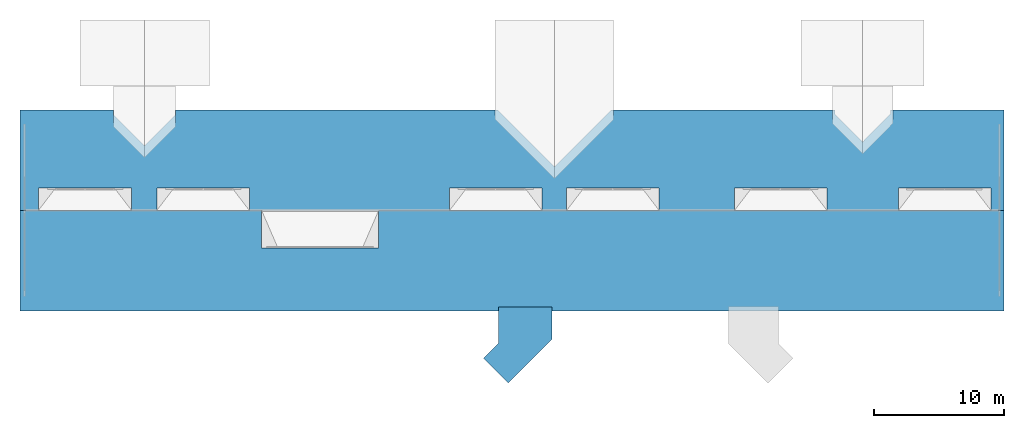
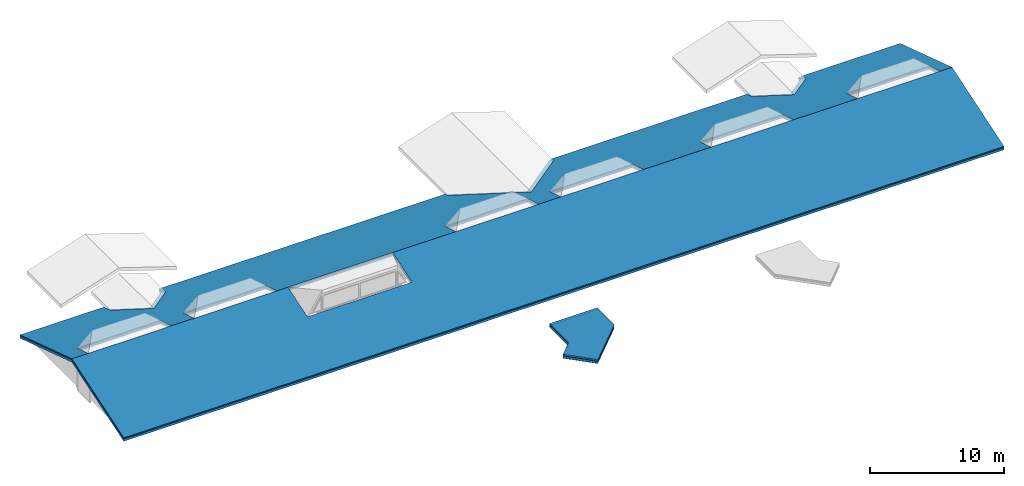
# One storey, part 6 of 7: 8 building element parts, 2 elements without a shape of their own.
"""IFC2X3 building model written with IfcOpenShell, lengths in millimetres."""

from ifc_helpers import new_model, entity, si_unit, converted_unit, derived_unit, money_unit, direction, frame, origin_with_axes, place, context, subcontext, project, spatial, faceted_brep, material, element, aggregate, save


model = new_model("IFC2X3")

# Units and contexts
model_context = context("Model", 3, precision=0.01, world=origin_with_axes(), true_north=direction((0.0, 1.0)))
body_context = subcontext(model_context, "Body", "Model", "MODEL_VIEW")
ifc_project = project(units=[si_unit("LENGTHUNIT", "METRE", prefix="MILLI"), si_unit("AREAUNIT", "SQUARE_METRE"), si_unit("VOLUMEUNIT", "CUBIC_METRE"), converted_unit("PLANEANGLEUNIT", "DEGREE", entity("IfcPlaneAngleMeasure", 0.0174532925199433), si_unit("PLANEANGLEUNIT", "RADIAN"), dimensions=[0, 0, 0, 0, 0, 0, 0]), money_unit("USD"), converted_unit("TIMEUNIT", "Year", entity("IfcTimeMeasure", 31557600.0), si_unit("TIMEUNIT", "SECOND"), dimensions=[0, 0, 1, 0, 0, 0, 0]), si_unit("MASSUNIT", "GRAM", prefix="KILO"), si_unit("THERMODYNAMICTEMPERATUREUNIT", "DEGREE_CELSIUS"), si_unit("LUMINOUSINTENSITYUNIT", "LUMEN"), si_unit("ENERGYUNIT", "JOULE", prefix="MEGA"), derived_unit("THERMALCONDUCTANCEUNIT", [(si_unit("POWERUNIT", "WATT"), 1), (si_unit("LENGTHUNIT", "METRE"), -1), (si_unit("THERMODYNAMICTEMPERATUREUNIT", "KELVIN"), -1)]), derived_unit("SPECIFICHEATCAPACITYUNIT", [(si_unit("ENERGYUNIT", "JOULE"), 1), (si_unit("MASSUNIT", "GRAM", prefix="KILO"), -1), (si_unit("THERMODYNAMICTEMPERATUREUNIT", "KELVIN"), -1)]), derived_unit("MASSDENSITYUNIT", [(si_unit("MASSUNIT", "GRAM", prefix="KILO"), 1), (si_unit("VOLUMEUNIT", "CUBIC_METRE"), -1)])], contexts=[model_context])

# Site, building, storey
site_placement = place(None, origin_with_axes())
site = spatial("IfcSite", under=ifc_project, at=site_placement, Name="Site", CompositionType="ELEMENT")
building_placement = place(site_placement, origin_with_axes())
building = spatial("IfcBuilding", under=site, at=building_placement, Name="Building", CompositionType="ELEMENT")
storey_placement = place(building_placement, frame((0.0, 0.0, 5900.0), z_axis=(0.0, 0.0, 1.0), x_axis=(1.0, 0.0, 0.0)))
storey = spatial("IfcBuildingStorey", under=building, at=storey_placement, Name="TAK", CompositionType="ELEMENT", Elevation=5900.0)

# Roof, building element parts
roof_1_placement = place(storey_placement, frame((32441.80777966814, 3132.334475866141, -3080.0), z_axis=(0.0, 0.0, 1.0), x_axis=(0.707106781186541, -0.707106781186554, 0.0)))
roof_1 = element("IfcRoof", 1, at=roof_1_placement, inside=storey, Name="RT - 001", ShapeType="NOTDEFINED")
ifc_material_1 = material(Name="Gravel")
building_element_part_1_placement = place(roof_1_placement, origin_with_axes())
building_element_part_1 = element("IfcBuildingElementPart", 2, at=building_element_part_1_placement, material=ifc_material_1, Name="Gravel", context=body_context, shape_type="Brep", body=[
    faceted_brep([(-1725.298761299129, 3857.543362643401, 350.0000000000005), (-1725.298761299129, 3857.543362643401, 380.0000000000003), (1174.701238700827, 6757.543362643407, 380.0000000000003), (1174.701238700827, 6757.543362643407, 350.0000000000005), (259.9999921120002, 1872.244609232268, 350.0000000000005), (259.9999921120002, 1872.244609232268, 380.0000000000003), (260.0000058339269, 267.6951193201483, 380.0000000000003), (2940.458074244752, 267.6951193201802, 380.0000000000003), (2940.458098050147, 4991.786503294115, 380.0000000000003), (2940.458098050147, 4991.786503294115, 350.0000000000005), (2940.458074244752, 267.6951193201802, 350.0000000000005), (260.0000058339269, 267.6951193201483, 350.0000000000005)], [[[0, 1, 2, 3]], [[4, 5, 1, 0]], [[2, 1, 5, 6, 7, 8]], [[3, 2, 8, 9]], [[3, 9, 10, 11, 4, 0]], [[11, 6, 5, 4]], [[10, 7, 6, 11]], [[9, 8, 7, 10]]]),
])
ifc_material_2 = material(Name="Membrane - Rainproof")
building_element_part_2_placement = place(roof_1_placement, origin_with_axes())
building_element_part_2 = element("IfcBuildingElementPart", 3, at=building_element_part_2_placement, material=ifc_material_2, Name="Membrane - Rainproof", context=body_context, shape_type="Brep", body=[
    faceted_brep([(-1725.298761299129, 3857.543362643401, 345.0000000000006), (-1725.298761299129, 3857.543362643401, 350.0000000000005), (1174.701238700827, 6757.543362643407, 350.0000000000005), (1174.701238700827, 6757.543362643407, 345.0000000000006), (259.9999921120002, 1872.244609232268, 345.0000000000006), (259.9999921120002, 1872.244609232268, 350.0000000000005), (260.0000058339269, 267.6951193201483, 350.0000000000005), (2940.458074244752, 267.6951193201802, 350.0000000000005), (2940.458098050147, 4991.786503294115, 350.0000000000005), (2940.458098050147, 4991.786503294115, 345.0000000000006), (2940.458074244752, 267.6951193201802, 345.0000000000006), (260.0000058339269, 267.6951193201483, 345.0000000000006)], [[[0, 1, 2, 3]], [[4, 5, 1, 0]], [[2, 1, 5, 6, 7, 8]], [[3, 2, 8, 9]], [[3, 9, 10, 11, 4, 0]], [[11, 6, 5, 4]], [[10, 7, 6, 11]], [[9, 8, 7, 10]]]),
])
ifc_material_3 = material(Name="Insulation - Fiber Hard")
building_element_part_3_placement = place(roof_1_placement, origin_with_axes())
building_element_part_3 = element("IfcBuildingElementPart", 4, at=building_element_part_3_placement, material=ifc_material_3, Name="Insulation - Fiber Hard", context=body_context, shape_type="Brep", body=[
    faceted_brep([(-1725.298761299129, 3857.543362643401, 225.0000000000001), (-1725.298761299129, 3857.543362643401, 345.0000000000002), (1174.701238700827, 6757.543362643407, 345.0000000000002), (1174.701238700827, 6757.543362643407, 225.0000000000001), (259.9999921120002, 1872.244609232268, 225.0000000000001), (259.9999921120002, 1872.244609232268, 345.0000000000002), (260.0000058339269, 267.6951193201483, 345.0000000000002), (2940.458074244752, 267.6951193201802, 345.0000000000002), (2940.458098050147, 4991.786503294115, 345.0000000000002), (2940.458098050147, 4991.786503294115, 225.0000000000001), (2940.458074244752, 267.6951193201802, 225.0000000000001), (260.0000058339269, 267.6951193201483, 225.0000000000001)], [[[0, 1, 2, 3]], [[4, 5, 1, 0]], [[2, 1, 5, 6, 7, 8]], [[3, 2, 8, 9]], [[3, 9, 10, 11, 4, 0]], [[11, 6, 5, 4]], [[10, 7, 6, 11]], [[9, 8, 7, 10]]]),
])
ifc_material_4 = material(Name="Membrane - Vapor Barrier")
building_element_part_4_placement = place(roof_1_placement, origin_with_axes())
building_element_part_4 = element("IfcBuildingElementPart", 5, at=building_element_part_4_placement, material=ifc_material_4, Name="Membrane - Vapor Barrier", context=body_context, shape_type="Brep", body=[
    faceted_brep([(-1725.298761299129, 3857.543362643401, 220.0000000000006), (-1725.298761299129, 3857.543362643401, 225.0000000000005), (1174.701238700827, 6757.543362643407, 225.0000000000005), (1174.701238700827, 6757.543362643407, 220.0000000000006), (259.9999921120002, 1872.244609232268, 220.0000000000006), (259.9999921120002, 1872.244609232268, 225.0000000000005), (260.0000058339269, 267.6951193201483, 225.0000000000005), (2940.458074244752, 267.6951193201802, 225.0000000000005), (2940.458098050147, 4991.786503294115, 225.0000000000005), (2940.458098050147, 4991.786503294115, 220.0000000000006), (2940.458074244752, 267.6951193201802, 220.0000000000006), (260.0000058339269, 267.6951193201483, 220.0000000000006)], [[[0, 1, 2, 3]], [[4, 5, 1, 0]], [[2, 1, 5, 6, 7, 8]], [[3, 2, 8, 9]], [[3, 9, 10, 11, 4, 0]], [[11, 6, 5, 4]], [[10, 7, 6, 11]], [[9, 8, 7, 10]]]),
])
ifc_material_5 = material(Name="Plaster - Gypsum")
building_element_part_5_placement = place(roof_1_placement, origin_with_axes())
building_element_part_5 = element("IfcBuildingElementPart", 6, at=building_element_part_5_placement, material=ifc_material_5, Name="Plaster - Gypsum", context=body_context, shape_type="Brep", body=[
    faceted_brep([(1174.701238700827, 6757.543362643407, 0.0), (-1725.298761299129, 3857.543362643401, 0.0), (-1725.298761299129, 3857.543362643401, 20.00000000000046), (1174.701238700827, 6757.543362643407, 20.00000000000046), (2940.458098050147, 4991.786503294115, 0.0), (2940.458074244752, 267.6951193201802, 0.0), (260.0000058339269, 267.6951193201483, 0.0), (259.9999921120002, 1872.244609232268, 0.0), (259.9999921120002, 1872.244609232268, 20.00000000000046), (260.0000058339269, 267.6951193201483, 20.00000000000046), (2940.458074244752, 267.6951193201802, 20.00000000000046), (2940.458098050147, 4991.786503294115, 20.00000000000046)], [[[0, 1, 2, 3]], [[0, 4, 5, 6, 7, 1]], [[1, 7, 8, 2]], [[3, 2, 8, 9, 10, 11]], [[4, 0, 3, 11]], [[5, 4, 11, 10]], [[6, 5, 10, 9]], [[7, 6, 9, 8]]]),
])
ifc_material_6 = material(Name="Reinforced Concrete - Structural")
building_element_part_6_placement = place(roof_1_placement, origin_with_axes())
building_element_part_6 = element("IfcBuildingElementPart", 7, at=building_element_part_6_placement, material=ifc_material_6, Name="Reinforced Concrete - Structural", context=body_context, shape_type="Brep", body=[
    faceted_brep([(-1725.298761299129, 3857.543362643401, 20.00000000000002), (-1725.298761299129, 3857.543362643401, 220.0000000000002), (1174.701238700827, 6757.543362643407, 220.0000000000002), (1174.701238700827, 6757.543362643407, 20.00000000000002), (259.9999921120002, 1872.244609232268, 20.00000000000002), (259.9999921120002, 1872.244609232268, 220.0000000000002), (260.0000058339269, 267.6951193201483, 220.0000000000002), (2940.458074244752, 267.6951193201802, 220.0000000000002), (2940.458098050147, 4991.786503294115, 220.0000000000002), (2940.458098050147, 4991.786503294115, 20.00000000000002), (2940.458074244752, 267.6951193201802, 20.00000000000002), (260.0000058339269, 267.6951193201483, 20.00000000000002)], [[[0, 1, 2, 3]], [[4, 5, 1, 0]], [[2, 1, 5, 6, 7, 8]], [[3, 2, 8, 9]], [[3, 9, 10, 11, 4, 0]], [[11, 6, 5, 4]], [[10, 7, 6, 11]], [[9, 8, 7, 10]]]),
])
aggregate(roof_1, [building_element_part_1, building_element_part_2, building_element_part_3, building_element_part_4, building_element_part_5, building_element_part_6])

roof_2_placement = place(storey_placement, frame((34994.86971369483, 14500.02954631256, -259.8882572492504), z_axis=(0.0, 0.0, 1.0), x_axis=(1.0, 0.0, 0.0)))
roof_2 = element("IfcRoof", 8, at=roof_2_placement, inside=storey, Name="RT - 001", ShapeType="NOTDEFINED")
ifc_material_7 = material(Name="GENERIC - EXTERNAL MEMBRANE")
building_element_part_7_placement = place(roof_2_placement, origin_with_axes())
building_element_part_7 = element("IfcBuildingElementPart", 9, at=building_element_part_7_placement, material=ifc_material_7, Name="GENERIC - EXTERNAL MEMBRANE", context=body_context, shape_type="Brep", body=[
    faceted_brep([(-25869.86893337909, 7336.123248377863, 237.5277323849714), (-25869.86893337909, 7660.033898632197, 237.5277323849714), (-25869.86893349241, 7720.095978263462, 218.0326164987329), (-25869.86893349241, 7720.095978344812, 112.8968012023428), (-25869.86893349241, 6735.770414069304, 537.5277328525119), (-25869.86893349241, 6411.859763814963, 537.5277328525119), (-30619.86971369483, 6735.770413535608, 537.5277330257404), (-30619.86971327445, 7660.033896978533, 237.5277327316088), (-30619.86971327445, 7720.095978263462, 218.0326164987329), (-37815.13028657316, 7720.095978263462, 218.0326164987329), (-37815.13028723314, 0.03321517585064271, 2723.831959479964), (-36394.86971369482, 0.03321517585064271, 2723.831959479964), (-36394.86971369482, 1699.970453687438, 2172.061624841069), (-29244.86971369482, 1699.970453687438, 2172.061624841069), (-29244.86971369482, 0.03321517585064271, 2723.831959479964), (-27294.86971369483, 0.03321517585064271, 2723.831959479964), (-27294.86971369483, 99.97045368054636, 2691.394054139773), (-27294.86971375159, 1699.970453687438, 2172.061624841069), (-20194.86971369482, 1699.970453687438, 2172.061624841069), (-20194.86971369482, 1583.422116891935, 2209.891206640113), (-20194.86971369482, 99.97045368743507, 2691.394054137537), (-20194.86971346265, 69.59593468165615, 2701.253099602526), (-20194.86971293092, 0.03321517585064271, 2723.831959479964), (-19244.86971369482, 0.03321517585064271, 2723.831959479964), (-10244.86971369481, 0.03321517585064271, 2723.831959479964), (-4794.869713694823, 0.03321517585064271, 2723.831959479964), (-4794.869713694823, 1699.970453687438, 2172.061624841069), (2305.130286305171, 1699.970453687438, 2172.061624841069), (2305.130286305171, 0.03321517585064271, 2723.831959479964), (4205.130286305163, 0.03321517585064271, 2723.831959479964), (4205.130286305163, 1699.970453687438, 2172.061624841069), (11305.13028630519, 1699.970453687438, 2172.061624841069), (11305.13028630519, 0.03321517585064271, 2723.831959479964), (17105.13028630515, 0.03321517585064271, 2723.831959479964), (17105.13028630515, 1699.970453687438, 2172.061624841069), (24205.13028630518, 1699.970453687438, 2172.061624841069), (24205.13028630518, 0.03321517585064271, 2723.831959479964), (29705.13028630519, 0.03321517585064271, 2723.831959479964), (29705.13028630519, 1699.970453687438, 2172.061624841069), (36805.13028630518, 1699.970453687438, 2172.061624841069), (36805.13028630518, 0.03321517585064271, 2723.831959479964), (37815.13028646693, 0.03321517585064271, 2723.831959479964), (37815.13028657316, 7720.095978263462, 218.0326164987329), (29280.13025976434, 7720.095978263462, 218.0326158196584), (29280.13025968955, 6996.030813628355, 453.0516918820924), (26955.13153909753, 4668.812771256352, 1208.426566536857), (24630.59105152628, 6996.053927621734, 453.0441894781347), (24630.59105139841, 7720.095978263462, 218.0326159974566), (7805.146743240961, 7720.095978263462, 218.0326164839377), (7805.14674316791, 7308.081279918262, 351.7654876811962), (3255.146863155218, 2753.358345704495, 1830.150066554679), (-1294.852815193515, 7308.081185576, 351.7655183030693), (-1294.85281534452, 7720.095978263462, 218.0326164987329), (-28244.86932421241, 4358.30469238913, 1309.212138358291), (-1294.852815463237, 7720.095978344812, 112.8968012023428), (-1294.852815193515, 6984.170535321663, 351.7655183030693), (3255.146861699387, 2429.447693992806, 1830.150067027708), (7805.14674316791, 6984.170629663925, 351.7654876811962), (7805.146743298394, 7720.095978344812, 112.8968012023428), (24830.59105210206, 7720.095978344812, 112.8968012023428), (24830.59105211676, 7396.18532898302, 218.0326159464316), (24630.59105136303, 7596.417663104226, 153.0406506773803), (24630.59105152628, 6672.143277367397, 453.0441894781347), (26955.13164729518, 4344.902121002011, 1208.426566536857), (29280.13025968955, 6672.120163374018, 453.0516918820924), (29280.13025978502, 7596.376299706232, 153.054076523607), (29080.13022713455, 7396.185329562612, 218.0326158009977), (29080.13022713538, 7720.095978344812, 112.8968012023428), (37815.13028685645, 7720.095978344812, 112.8968012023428), (37815.13028608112, 0.03321475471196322, 2618.696144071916), (36805.13028614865, 0.03321475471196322, 2618.696144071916), (36805.13028614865, 1699.970453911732, 2066.925809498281), (29705.13028652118, 1699.970453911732, 2066.925809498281), (29705.13028652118, 0.03321475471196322, 2618.696144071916), (24205.13028652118, 0.03321475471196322, 2618.696144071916), (24205.13028652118, 1699.970453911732, 2066.925809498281), (17105.13028596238, 1699.970453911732, 2066.925809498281), (17105.13028596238, 0.03321475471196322, 2618.696144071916), (11305.13028614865, 0.03321475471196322, 2618.696144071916), (11305.13028614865, 1699.970453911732, 2066.925809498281), (4205.130286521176, 1699.970453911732, 2066.925809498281), (4205.130286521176, 0.03321475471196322, 2618.696144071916), (2305.130286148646, 0.03321475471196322, 2618.696144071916), (2305.130286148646, 1699.970453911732, 2066.925809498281), (-4794.869713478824, 1699.970453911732, 2066.925809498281), (-4794.869713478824, 0.03321475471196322, 2618.696144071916), (-10244.86971351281, 0.03321475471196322, 2618.696144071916), (-19244.86971351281, 0.03321475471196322, 2618.696144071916), (-20194.86971333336, 0.03321475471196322, 2618.696144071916), (-20194.86971385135, 38.72322380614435, 2606.138034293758), (-20194.86971385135, 69.09774240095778, 2596.278988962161), (-20194.86971385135, 1552.549405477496, 2114.776141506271), (-20194.86971385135, 1699.970453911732, 2066.925809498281), (-27294.86971347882, 1699.970453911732, 2066.925809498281), (-27294.86971347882, 69.09774240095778, 2596.278988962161), (-27294.86971347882, 0.03321475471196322, 2618.696144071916), (-29244.86971366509, 0.03321475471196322, 2618.696144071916), (-29244.86971366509, 1699.970453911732, 2066.925809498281), (-36394.86971403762, 1699.970453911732, 2066.925809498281), (-36394.86971403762, 0.03321475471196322, 2618.696144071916), (-37815.13028761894, 0.03321475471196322, 2618.696144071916), (-37815.13028684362, 7720.095978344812, 112.8968012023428), (-30619.86971327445, 7720.095978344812, 112.8968012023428), (-30619.86971327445, 7336.123246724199, 237.5277327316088), (-30619.86971369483, 6411.859763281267, 537.5277330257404), (-28244.86932421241, 4034.394042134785, 1309.212138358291), (-37815.13028657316, -7720.095978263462, 218.0110538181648), (37815.13028657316, -7720.095978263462, 218.0110538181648), (-10244.86971369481, -2885.405927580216, 1787.268134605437), (-19244.86971369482, -2885.405927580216, 1787.268134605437), (29080.13022713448, 7720.095978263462, 218.0326158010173), (29280.13025978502, 7720.095978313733, 153.054076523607), (24630.59105136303, 7720.095978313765, 153.0406506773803), (24830.59105211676, 7720.095978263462, 218.0326159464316), (37815.13028701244, -7720.095978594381, 112.8752384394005), (-37815.13028668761, -7720.095978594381, 112.8752384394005), (-19244.86971351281, -2885.405927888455, 1682.132319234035), (-10244.86971351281, -2885.405927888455, 1682.132319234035)], [[[0, 1, 2, 3]], [[4, 1, 0, 5]], [[6, 7, 8, 9, 10, 11, 12, 13, 14, 15, 16, 17, 18, 19, 20, 21, 22, 23, 24, 25, 26, 27, 28, 29, 30, 31, 32, 33, 34, 35, 36, 37, 38, 39, 40, 41, 42, 43, 44, 45, 46, 47, 48, 49, 50, 51, 52, 2, 1, 4, 53]], [[2, 52, 54, 3]], [[5, 0, 3, 54, 55, 56, 57, 58, 59, 60, 61, 62, 63, 64, 65, 66, 67, 68, 69, 70, 71, 72, 73, 74, 75, 76, 77, 78, 79, 80, 81, 82, 83, 84, 85, 86, 87, 88, 89, 90, 91, 92, 93, 94, 95, 96, 97, 98, 99, 100, 101, 102, 103, 104, 105]], [[53, 4, 5, 105]], [[103, 7, 6, 104]], [[7, 103, 102, 8]], [[102, 101, 9, 8]], [[100, 10, 9, 101]], [[11, 10, 106, 107, 41, 40, 37, 36, 33, 32, 29, 28, 25, 24, 108, 109, 23, 22, 15, 14]], [[11, 99, 98, 12]], [[97, 13, 12, 98]], [[96, 14, 13, 97]], [[15, 95, 94, 16]], [[93, 17, 16, 94]], [[92, 18, 17, 93]], [[91, 19, 18, 92]], [[90, 20, 19, 91]], [[89, 21, 20, 90]], [[88, 22, 21, 89]], [[86, 24, 23, 87]], [[25, 85, 84, 26]], [[83, 27, 26, 84]], [[82, 28, 27, 83]], [[29, 81, 80, 30]], [[79, 31, 30, 80]], [[78, 32, 31, 79]], [[33, 77, 76, 34]], [[75, 35, 34, 76]], [[74, 36, 35, 75]], [[37, 73, 72, 38]], [[71, 39, 38, 72]], [[70, 40, 39, 71]], [[41, 69, 68, 42]], [[68, 67, 110, 111, 43, 42]], [[65, 64, 44, 43, 111]], [[64, 63, 45, 44]], [[63, 62, 46, 45]], [[62, 61, 112, 47, 46]], [[59, 58, 48, 47, 112, 113]], [[57, 49, 48, 58]], [[56, 50, 49, 57]], [[55, 51, 50, 56]], [[55, 54, 52, 51]], [[6, 53, 105, 104]], [[60, 59, 113]], [[112, 61, 60, 113]], [[66, 65, 111, 110]], [[110, 67, 66]], [[78, 77, 74, 73, 70, 69, 114, 115, 100, 99, 96, 95, 88, 87, 116, 117, 86, 85, 82, 81]], [[10, 100, 115, 106]], [[114, 107, 106, 115]], [[69, 41, 107, 114]], [[40, 70, 73, 37]], [[36, 74, 77, 33]], [[32, 78, 81, 29]], [[28, 82, 85, 25]], [[24, 86, 117, 108]], [[116, 109, 108, 117]], [[87, 23, 109, 116]], [[22, 88, 95, 15]], [[14, 96, 99, 11]]]),
    faceted_brep([(-1106.710178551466, 7720.095978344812, 112.8968012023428), (-1094.852821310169, 7720.095978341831, 116.7494901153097), (-1094.852814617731, 7720.095978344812, 112.8968012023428), (-1094.852821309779, 7708.226374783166, 116.7494901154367)], [[[0, 1, 2]], [[3, 1, 0]], [[1, 3, 2]], [[3, 0, 2]]]),
    faceted_brep([(7605.146648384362, 7720.095978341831, 116.7494572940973), (7617.003904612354, 7720.095978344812, 112.8968012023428), (7605.146648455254, 7720.095978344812, 112.8968012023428), (7605.146648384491, 7708.226411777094, 116.7494572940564)], [[[0, 1, 2]], [[3, 1, 0]], [[1, 3, 2]], [[3, 0, 2]]]),
])
ifc_material_8 = material(Name="GENERIC - PREFABRICATED")
building_element_part_8_placement = place(roof_2_placement, origin_with_axes())
building_element_part_8 = element("IfcBuildingElementPart", 10, at=building_element_part_8_placement, material=ifc_material_8, Name="GENERIC - PREFABRICATED", context=body_context, shape_type="Brep", body=[
    faceted_brep([(29080.13022713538, 7720.09597834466, -97.3748303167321), (29080.13022713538, 7720.095978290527, 112.8968008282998), (37815.13028666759, 7720.095978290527, 112.8968008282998), (37815.13028685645, 7720.09597834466, -97.3748303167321), (29080.13022713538, 7396.18532892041, 218.0326158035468), (29080.13022713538, 6748.36402773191, 218.0326158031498), (24830.59105210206, 7396.185328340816, 218.0326159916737), (24830.59105210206, 7720.095978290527, 112.8968008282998), (7605.146648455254, 7720.095978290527, 112.8968008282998), (7605.146648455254, 7708.226411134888, 116.7494575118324), (3255.146865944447, 3353.711172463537, 1530.150068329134), (-1094.852814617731, 7708.226374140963, 116.7494695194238), (-1094.852814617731, 7720.095978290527, 112.8968008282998), (-25869.86893349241, 7720.095978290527, 112.8968008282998), (-25869.86893337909, 7336.12324773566, 237.5277323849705), (-28244.86932590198, 4958.657525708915, 1009.212138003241), (-30619.86971327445, 7336.123246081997, 237.5277329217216), (-30619.86971327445, 7720.095978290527, 112.8968008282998), (-37815.13028666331, 7720.095978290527, 112.8968008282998), (-37815.13028735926, 0.03321503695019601, 2618.696143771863), (-36394.86971380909, 0.03321503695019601, 2618.696143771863), (-36394.86971380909, 1699.970453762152, 2066.925809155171), (-29244.86971368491, 1699.970453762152, 2066.925809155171), (-29244.86971368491, 0.03321503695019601, 2618.696143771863), (-27294.86971362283, 0.03321503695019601, 2618.696143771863), (-27294.86971362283, 69.09774235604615, 2596.278988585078), (-27294.86971366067, 1699.970453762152, 2066.925809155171), (-20194.869713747, 1699.970453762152, 2066.925809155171), (-20194.869713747, 1552.549405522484, 2114.776141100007), (-20194.869713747, 69.09774236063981, 2596.278988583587), (-20194.86971363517, 38.72322352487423, 2606.138033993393), (-20194.86971333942, 0.03321503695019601, 2618.696143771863), (-19244.86971363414, 0.03321503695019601, 2618.696143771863), (-10244.86971363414, 0.03321503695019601, 2618.696143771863), (-4794.869713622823, 0.03321503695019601, 2618.696143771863), (-4794.869713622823, 1699.970453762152, 2066.925809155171), (2305.130286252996, 1699.970453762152, 2066.925809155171), (2305.130286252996, 0.03321503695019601, 2618.696143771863), (4205.13028637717, 0.03321503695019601, 2618.696143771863), (4205.13028637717, 1699.970453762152, 2066.925809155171), (11305.130286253, 1699.970453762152, 2066.925809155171), (11305.130286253, 0.03321503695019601, 2618.696143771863), (17105.1302861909, 0.03321503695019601, 2618.696143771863), (17105.1302861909, 1699.970453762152, 2066.925809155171), (24205.13028637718, 1699.970453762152, 2066.925809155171), (24205.13028637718, 0.03321503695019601, 2618.696143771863), (29705.13028637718, 0.03321503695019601, 2618.696143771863), (29705.13028637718, 1699.970453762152, 2066.925809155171), (36805.130286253, 1699.970453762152, 2066.925809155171), (36805.130286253, 0.03321503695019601, 2618.696143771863), (37815.13028634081, 0.03321503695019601, 2618.696143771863), (26955.14097900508, 5269.167380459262, 908.4259897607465), (37815.13028608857, 0.03321475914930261, 2408.424512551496), (36805.13028614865, 0.03321475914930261, 2408.424512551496), (36805.13028614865, 1699.970453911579, 1856.654177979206), (29705.13028652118, 1699.970453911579, 1856.654177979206), (29705.13028652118, 0.03321475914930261, 2408.424512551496), (24205.13028652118, 0.03321475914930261, 2408.424512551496), (24205.13028652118, 1699.970453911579, 1856.654177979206), (17105.13028596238, 1699.970453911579, 1856.654177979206), (17105.13028596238, 0.03321475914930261, 2408.424512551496), (11305.13028614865, 0.03321475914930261, 2408.424512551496), (11305.13028614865, 1699.970453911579, 1856.654177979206), (4205.130286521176, 1699.970453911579, 1856.654177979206), (4205.130286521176, 0.03321475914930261, 2408.424512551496), (2305.130286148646, 0.03321475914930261, 2408.424512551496), (2305.130286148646, 1699.970453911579, 1856.654177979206), (-4794.869713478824, 1699.970453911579, 1856.654177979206), (-4794.869713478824, 0.03321475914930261, 2408.424512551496), (-10244.86971351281, 0.03321475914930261, 2408.424512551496), (-19244.86971351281, 0.03321475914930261, 2408.424512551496), (-20194.86971385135, 0.03321475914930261, 2408.424512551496), (-20194.86971385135, 7.352319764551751, 2406.048857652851), (-20194.86971385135, 1490.803982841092, 1924.54601019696), (-20194.86971385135, 1699.970453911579, 1856.654177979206), (-27294.86971347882, 1699.970453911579, 1856.654177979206), (-27294.86971347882, 7.352319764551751, 2406.048857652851), (-27294.86971347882, 0.03321475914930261, 2408.424512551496), (-29244.86971366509, 0.03321475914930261, 2408.424512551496), (-29244.86971366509, 1699.970453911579, 1856.654177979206), (-36394.86971403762, 1699.970453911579, 1856.654177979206), (-36394.86971403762, 0.03321475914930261, 2408.424512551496), (-37815.13028761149, 0.03321475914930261, 2408.424512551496), (-37815.13028684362, 7720.09597834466, -97.3748303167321), (-30619.86971327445, 7720.09597834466, -97.3748303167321), (-30619.86971327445, 6688.301944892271, 237.5277329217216), (-28244.86932546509, 4310.836224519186, 1009.212138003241), (-25869.86893337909, 6688.301946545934, 237.5277323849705), (-25869.86893349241, 7720.09597834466, -97.3748303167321), (-1094.852814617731, 7720.09597834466, -97.3748303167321), (-1094.852814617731, 7060.405072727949, 116.7494695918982), (3255.146863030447, 2705.889869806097, 1530.150068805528), (7605.146648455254, 7060.405110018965, 116.7494574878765), (7605.146648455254, 7720.09597834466, -97.3748303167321), (24830.59105210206, 7720.09597834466, -97.3748303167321), (24830.59105210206, 6748.364027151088, 218.0326159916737), (26955.14097900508, 4621.346079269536, 908.4259897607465), (37815.13028672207, -7720.095978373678, 112.8752381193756), (-10244.86971363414, -2885.405927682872, 1682.132318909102), (-19244.86971363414, -2885.405927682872, 1682.132318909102), (-37815.13028660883, -7720.095978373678, 112.8752381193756), (-20194.86971385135, 0.0332148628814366, 2486.938826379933), (37815.13028701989, -7720.09597859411, -97.3963930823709), (-37815.13028668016, -7720.09597859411, -97.3963930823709), (-19244.86971351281, -2885.405927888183, 1471.860687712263), (-10244.86971351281, -2885.405927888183, 1471.860687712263)], [[[0, 1, 2, 3]], [[4, 1, 0, 5]], [[6, 7, 8, 9, 10, 11, 12, 13, 14, 15, 16, 17, 18, 19, 20, 21, 22, 23, 24, 25, 26, 27, 28, 29, 30, 31, 32, 33, 34, 35, 36, 37, 38, 39, 40, 41, 42, 43, 44, 45, 46, 47, 48, 49, 50, 2, 1, 4, 51]], [[2, 50, 52, 3]], [[5, 0, 3, 52, 53, 54, 55, 56, 57, 58, 59, 60, 61, 62, 63, 64, 65, 66, 67, 68, 69, 70, 71, 72, 73, 74, 75, 76, 77, 78, 79, 80, 81, 82, 83, 84, 85, 86, 87, 88, 89, 90, 91, 92, 93, 94, 95, 96]], [[51, 4, 5, 96]], [[94, 7, 6, 95]], [[7, 94, 93, 8]], [[9, 8, 93, 92]], [[10, 9, 92, 91]], [[11, 10, 91, 90]], [[89, 12, 11, 90]], [[88, 13, 12, 89]], [[14, 13, 88, 87]], [[15, 14, 87, 86]], [[16, 15, 86, 85]], [[84, 17, 16, 85]], [[17, 84, 83, 18]], [[83, 82, 19, 18]], [[97, 50, 49, 46, 45, 42, 41, 38, 37, 34, 33, 98, 99, 32, 31, 24, 23, 20, 19, 100]], [[21, 20, 81, 80]], [[79, 22, 21, 80]], [[79, 78, 23, 22]], [[25, 24, 77, 76]], [[75, 26, 25, 76]], [[74, 27, 26, 75]], [[73, 28, 27, 74]], [[72, 29, 28, 73]], [[72, 71, 101, 30, 29]], [[30, 101, 31]], [[70, 69, 33, 32]], [[35, 34, 68, 67]], [[66, 36, 35, 67]], [[66, 65, 37, 36]], [[39, 38, 64, 63]], [[62, 40, 39, 63]], [[62, 61, 41, 40]], [[43, 42, 60, 59]], [[58, 44, 43, 59]], [[58, 57, 45, 44]], [[47, 46, 56, 55]], [[54, 48, 47, 55]], [[54, 53, 49, 48]], [[6, 51, 96, 95]], [[102, 52, 50, 97]], [[56, 53, 52, 102, 103, 82, 81, 78, 77, 71, 70, 104, 105, 69, 68, 65, 64, 61, 60, 57]], [[100, 19, 82, 103]], [[46, 49, 53, 56]], [[42, 45, 57, 60]], [[38, 41, 61, 64]], [[34, 37, 65, 68]], [[98, 33, 69, 105]], [[104, 99, 98, 105]], [[104, 70, 32, 99]], [[24, 31, 101, 71, 77]], [[20, 23, 78, 81]], [[102, 97, 100, 103]]]),
])
aggregate(roof_2, [building_element_part_7, building_element_part_8])

save(model, "model.ifc")
